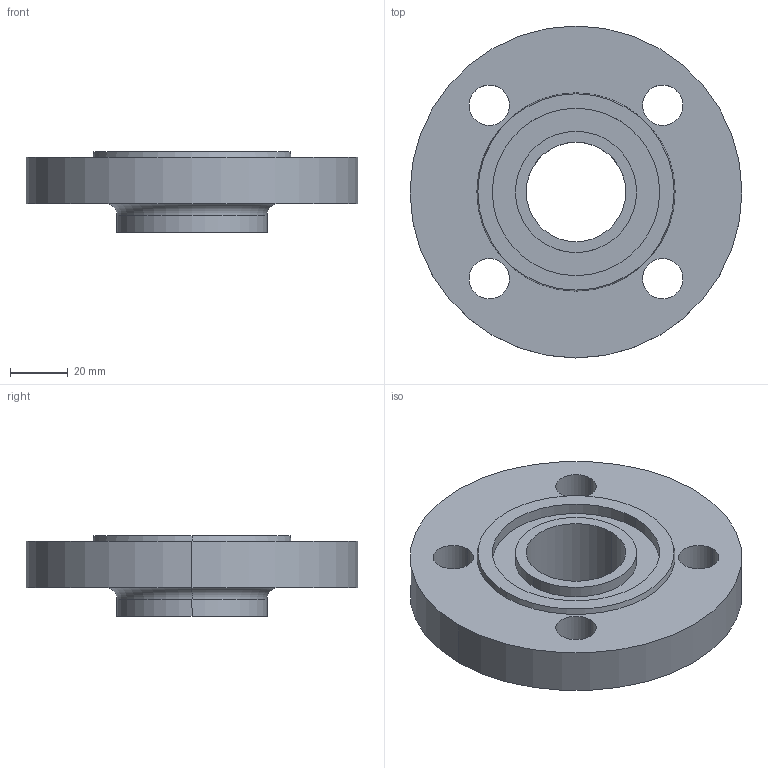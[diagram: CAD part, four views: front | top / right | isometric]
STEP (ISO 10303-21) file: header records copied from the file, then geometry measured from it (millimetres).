
FILE_DESCRIPTION (( 'STEP AP214' ), '1' );
FILE_NAME ('PN40 DN25 Type 12 - Type D Face.STEP', '2018-12-29T20:29:01', ( '' ), ( '' ), 'SwSTEP 2.0', 'SolidWorks 2019', '' );
FILE_SCHEMA (( 'AUTOMOTIVE_DESIGN' ));
Length unit declared in the file: millimetre
Products named in the file (1): PN40 DN25 Type 12 - Type D Face
Bounding box: 115 x 115 x 28 mm (x, y, z)
Volume: 154293 mm3; surface area: 32280.1 mm2
Topology: 1 solids, 1 shells, 28 faces, 64 edges, 42 vertices
Faces by surface type: cylinder 18, plane 6, torus 2, cone 2
Entity records: 870 total; most frequent: DIRECTION 166, CARTESIAN_POINT 135, ORIENTED_EDGE 128, AXIS2_PLACEMENT_3D 73, EDGE_CURVE 64, CIRCLE 44, VERTEX_POINT 42, EDGE_LOOP 42
